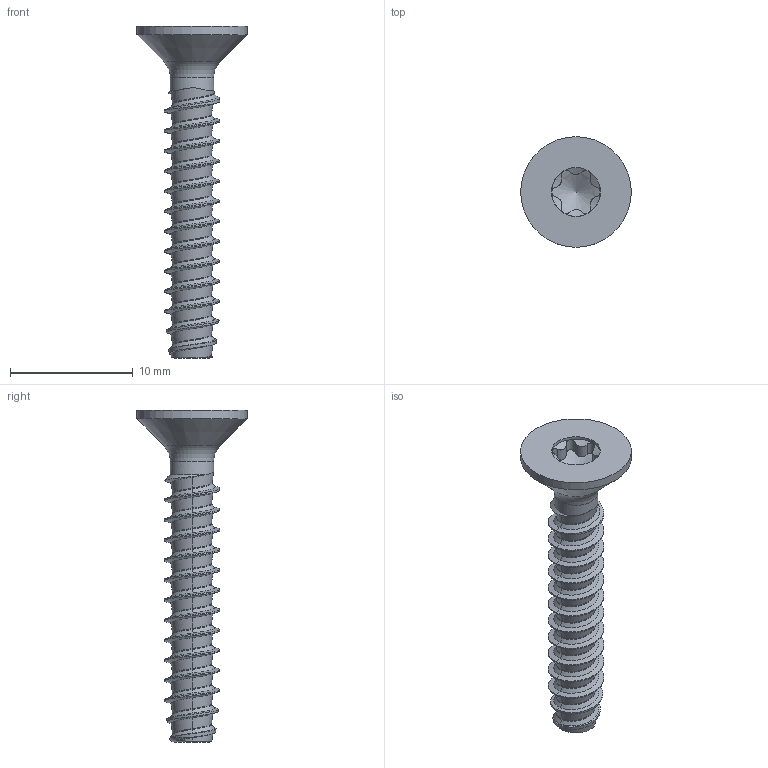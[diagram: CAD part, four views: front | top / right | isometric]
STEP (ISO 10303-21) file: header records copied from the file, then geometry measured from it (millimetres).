
FILE_DESCRIPTION(/* description */ (''),/* implementation_level */ '2;1');
FILE_NAME(/* name */ 'KN6041-STSplus-45x27-T20.step',/* time_stamp */ '2017-10-12T10:56:18+02:00',/* author */ (''),/* organization */ (''),/* preprocessor_version */ 'ST-DEVELOPER v16',/* originating_system */ 'SIEMENS PLM Software NX 10.0',/* authorisation */ '');
FILE_SCHEMA (('AUTOMOTIVE_DESIGN { 1 0 10303 214 3 1 1 1 }'));
Length unit declared in the file: millimetre
Products named in the file (1): KN6041-STSplus-45x27-T20
Bounding box: 9 x 9 x 27 mm (x, y, z)
Volume: 347.1 mm3; surface area: 572.2 mm2
Topology: 1 solids, 1 shells, 97 faces, 230 edges, 135 vertices
Faces by surface type: bspline 72, cylinder 16, cone 5, torus 2, plane 2
Full cylindrical faces by diameter (mm): 3.53 x1, 3.97 x1, 9 x1
Entity records: 6889 total; most frequent: CARTESIAN_POINT 5197, ORIENTED_EDGE 430, EDGE_CURVE 215, DIRECTION 153, VERTEX_POINT 129, B_SPLINE_CURVE_WITH_KNOTS 125, EDGE_LOOP 105, ADVANCED_FACE 97
